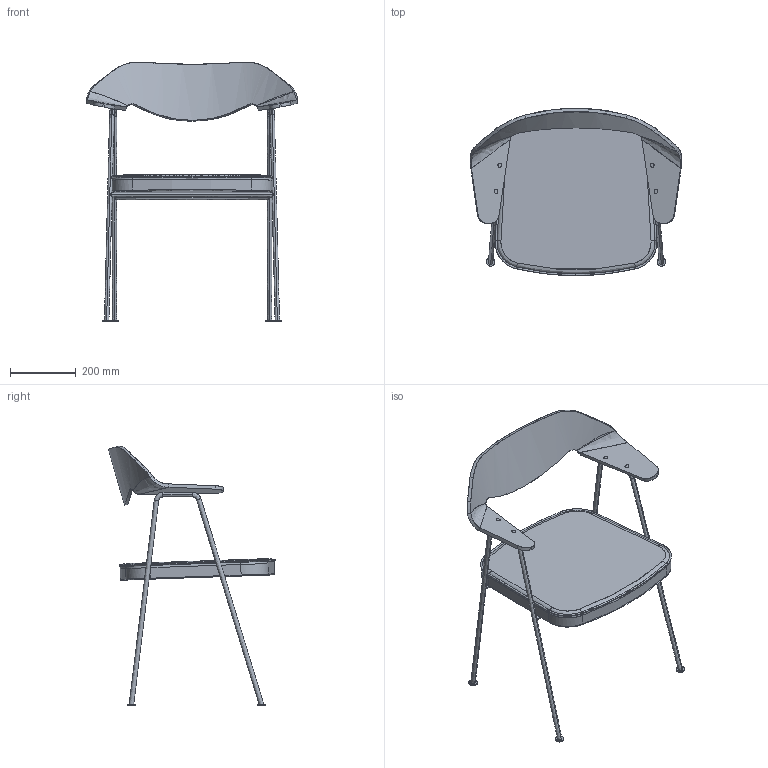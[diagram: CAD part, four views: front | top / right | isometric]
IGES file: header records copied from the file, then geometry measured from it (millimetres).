
Global section: file name: S:\CASE\SALES & MARKETING\DWR\3D MODELS - FOR CONTRACTS\675\675 CHAIR - PROPERTY OF CASE FURNITURE LTD - ONLY FOR VISUALISATION.igs; native system: Rhinoceros ( Oct 24 2012 ); preprocessor: Trout Lake IGES 012 Oct 24 2012; date: 190930.110249; units: millimetre
Bounding box: 642.44 x 507.87 x 789.64 mm (x, y, z)
Surface area: 968774.4 mm2 (no closed solid volume)
Topology: 0 solids, 0 shells, 198 faces, 2338 edges, 2338 vertices
Faces by surface type: bspline 198
